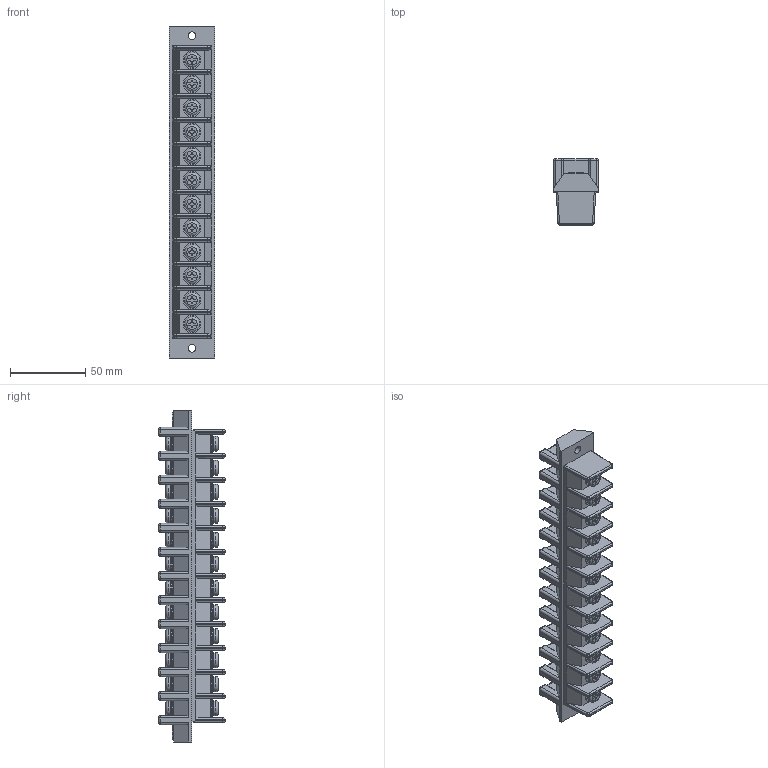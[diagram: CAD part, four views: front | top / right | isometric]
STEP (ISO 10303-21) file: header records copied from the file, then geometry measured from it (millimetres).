
FILE_DESCRIPTION(/* description */ ('Alibre Inc.'),/* implementation_level */ '2;1');
FILE_NAME(/* name */ 'export-47D754F8-C440-420F-A461-AF4365426411',/* time_stamp */ '2025-02-21T13:38:22+09:00',/* author */ (''),/* organization */ (''),/* preprocessor_version */ 'ST-DEVELOPER v17',/* originating_system */ 'Alibre',/* authorisation */ '');
FILE_SCHEMA (('CONFIG_CONTROL_DESIGN'));
Length unit declared in the file: millimetre
Bounding box: 30 x 44 x 221 mm (x, y, z)
Volume: 154186.6 mm3; surface area: 51591.2 mm2
Topology: 1 solids, 37 shells, 1543 faces, 3556 edges, 2210 vertices
Faces by surface type: plane 723, cylinder 592, torus 180, cone 48
Full cylindrical faces by diameter (mm): 4.4 x24, 4.6 x24, 5 x36, 5.2 x2, 8 x24, 9.9 x26, 10 x24, 11.7 x24
Entity records: 40602 total; most frequent: CARTESIAN_POINT 7417, ORIENTED_EDGE 6548, DIRECTION 6461, EDGE_CURVE 3274, AXIS2_PLACEMENT_3D 2741, VERTEX_POINT 2184, EDGE_LOOP 1974, FACE_BOUND 1974
